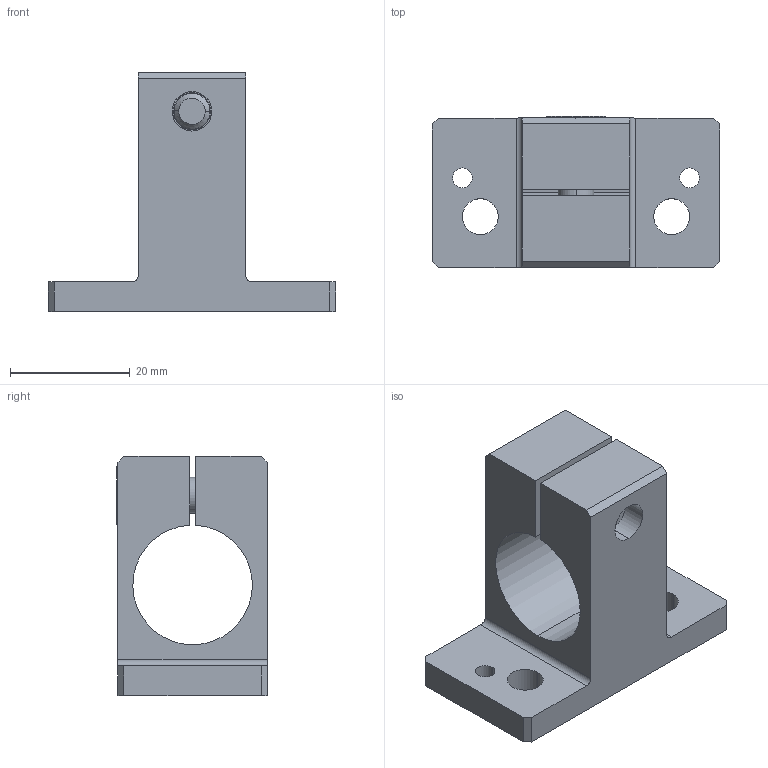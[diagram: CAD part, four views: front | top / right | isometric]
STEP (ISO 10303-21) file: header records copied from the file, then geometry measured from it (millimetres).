
FILE_DESCRIPTION (( 'STEP AP214' ), '1' );
FILE_NAME ('SMBU5-20T.STEP', '2023-01-05T01:57:48', ( 'Windows User' ), ( 'P R C' ), 'SwSTEP 2.0', 'SolidWorks 2018', '' );
FILE_SCHEMA (( 'AUTOMOTIVE_DESIGN' ));
Length unit declared in the file: millimetre
Products named in the file (1): SMBU5-20T
Bounding box: 48 x 25.2 x 40 mm (x, y, z)
Volume: 15155.8 mm3; surface area: 8373.8 mm2
Topology: 3 solids, 3 shells, 206 faces, 594 edges, 394 vertices
Faces by surface type: plane 174, cylinder 26, cone 4, bspline 2
Entity records: 9180 total; most frequent: CARTESIAN_POINT 1237, DIRECTION 1202, ORIENTED_EDGE 1188, EDGE_CURVE 594, AXIS2_PLACEMENT_3D 407, VERTEX_POINT 394, LINE 388, VECTOR 388
